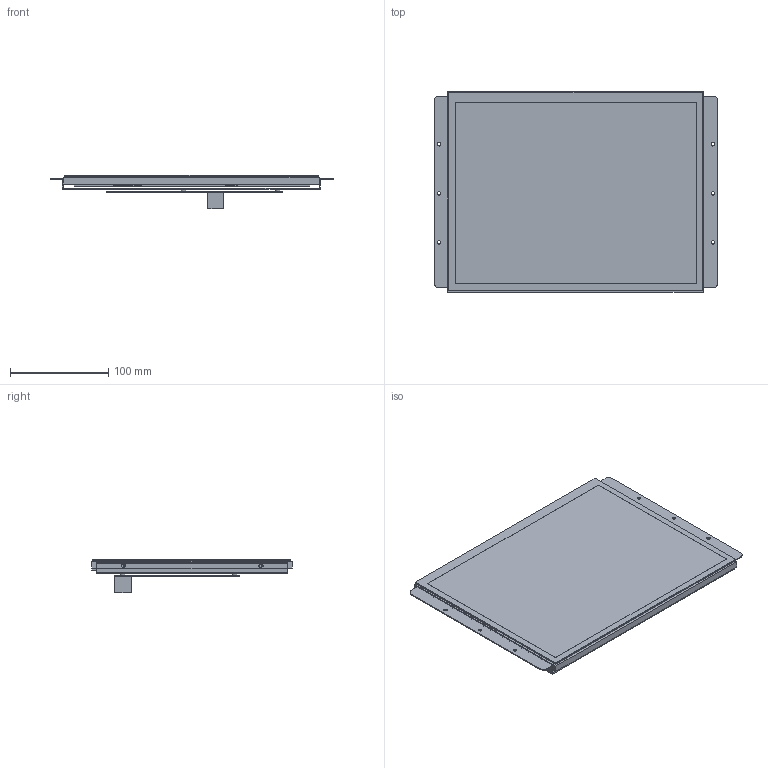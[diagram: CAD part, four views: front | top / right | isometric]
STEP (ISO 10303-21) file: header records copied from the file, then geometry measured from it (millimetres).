
FILE_DESCRIPTION((''),'2;1');
FILE_NAME('DMG10768T121_34WTC','2022-08-17T',('Administrator'),(''),'PRO/ENGINEER BY PARAMETRIC TECHNOLOGY CORPORATION, 2011310','PRO/ENGINEER BY PARAMETRIC TECHNOLOGY CORPORATION, 2011310','');
FILE_SCHEMA(('CONFIG_CONTROL_DESIGN','SHAPE_APPEARANCE_LAYERS_GROUPS'));
Products named in the file (1): DMG10768T121_34WTC
Bounding box: 289.2 x 204 x 34.6 mm (x, y, z)
Volume: 537422 mm3; surface area: 414312.5 mm2
Topology: 2 solids, 2 shells, 210 faces, 22839 edges, 23864 vertices
Faces by surface type: plane 136, cylinder 74
Entity records: 232499 total; most frequent: DIRECTION 29361, PRESENTATION_STYLE_ASSIGNMENT 25578, STYLED_ITEM 25578, CURVE_STYLE 23894, CARTESIAN_POINT 23435, TRIMMED_CURVE 22289, COMPOSITE_CURVE_SEGMENT 19229, VECTOR 16733
